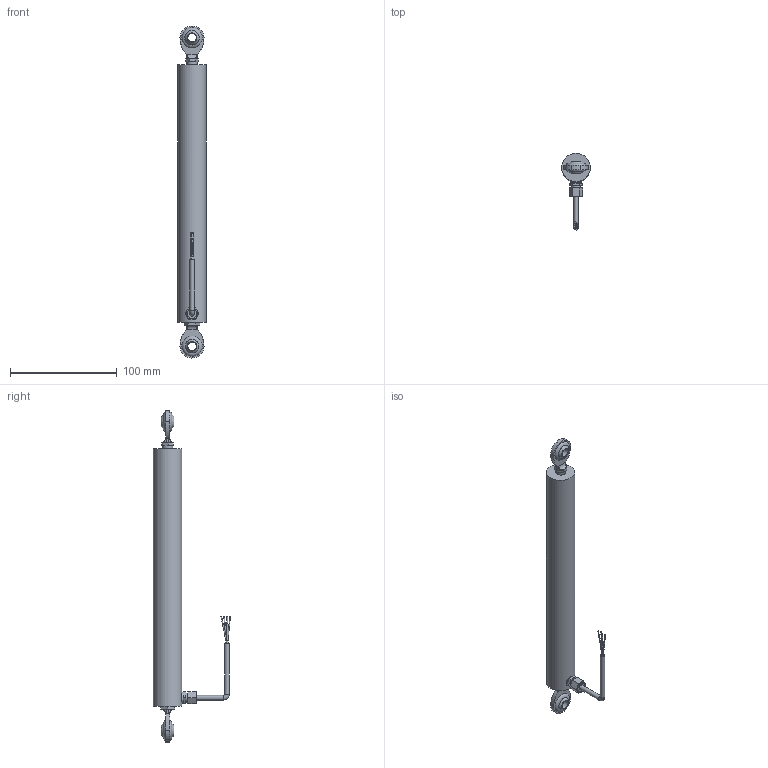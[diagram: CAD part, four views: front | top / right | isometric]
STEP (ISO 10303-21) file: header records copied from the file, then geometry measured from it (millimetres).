
FILE_DESCRIPTION(/* description */ (''),/* implementation_level */ '2;1');
FILE_NAME(/* name */ 'ILPS-27-150-R-00-YY-Z (wrapped).step',/* time_stamp */ '2024-02-08T12:54:48-05:00',/* author */ ('TSC_Grant'),/* organization */ (''),/* preprocessor_version */ 'ST-DEVELOPER v19.2',/* originating_system */ 'Autodesk Inventor 2024',/* authorisation */ '');
FILE_SCHEMA (('AUTOMOTIVE_DESIGN { 1 0 10303 214 3 1 1 }'));
Length unit declared in the file: inch
Products named in the file (4): ILPS-27-100-R-00-50-A (wrapped); ILPS-27-100-R-00-50-A Housing (wrapped); ILPS-27-100-R-00-50-A Shaft (wrapped); LZ-33 Cable
Assembly tree (3 placements, depth 2):
  ILPS-27-100-R-00-50-A (wrapped)
    ILPS-27-100-R-00-50-A Housing (wrapped)
    ILPS-27-100-R-00-50-A Shaft (wrapped)
    LZ-33 Cable
Bounding box: 26.67 x 72.34 x 311.12 mm (x, y, z)
Volume: 140359.1 mm3; surface area: 38697.9 mm2
Topology: 4 solids, 4 shells, 152 faces, 344 edges, 226 vertices
Faces by surface type: plane 76, cylinder 55, bspline 8, torus 6, sphere 4, cone 3
Full cylindrical faces by diameter (mm): 0.635 x4, 0.762 x4, 4.369 x3, 4.572 x2, 6.35 x1, 6.858 x1, 8 x2, 8.712 x2, 9.398 x2, 10.999 x1, 26.67 x1
Entity records: 5087 total; most frequent: CARTESIAN_POINT 1205, DIRECTION 756, ORIENTED_EDGE 686, EDGE_CURVE 343, AXIS2_PLACEMENT_3D 305, VERTEX_POINT 226, EDGE_LOOP 185, STYLED_ITEM 156
